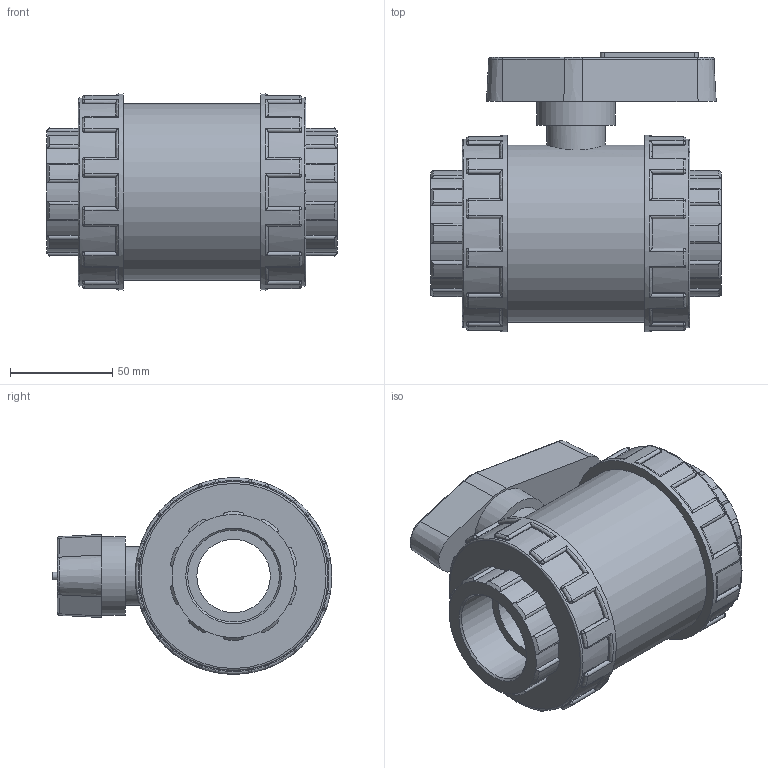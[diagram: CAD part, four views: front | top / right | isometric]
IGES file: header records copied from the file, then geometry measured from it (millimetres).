
Global section: file name: 11151015.ipt; native system: Autodesk Inventor 2015; preprocessor: unknown; author: KIM; date: 20171207.170234; units: millimetre
Bounding box: 142 x 136.58 x 96 mm (x, y, z)
Volume: 708378.1 mm3; surface area: 83116.2 mm2
Topology: 1 solids, 1 shells, 434 faces, 1085 edges, 662 vertices
Faces by surface type: cylinder 189, plane 114, revolution 59, sphere 48, cone 24
Full cylindrical faces by diameter (mm): 28.8 x1, 38.4 x1, 86.4 x1, 92.16 x2, 96 x2
